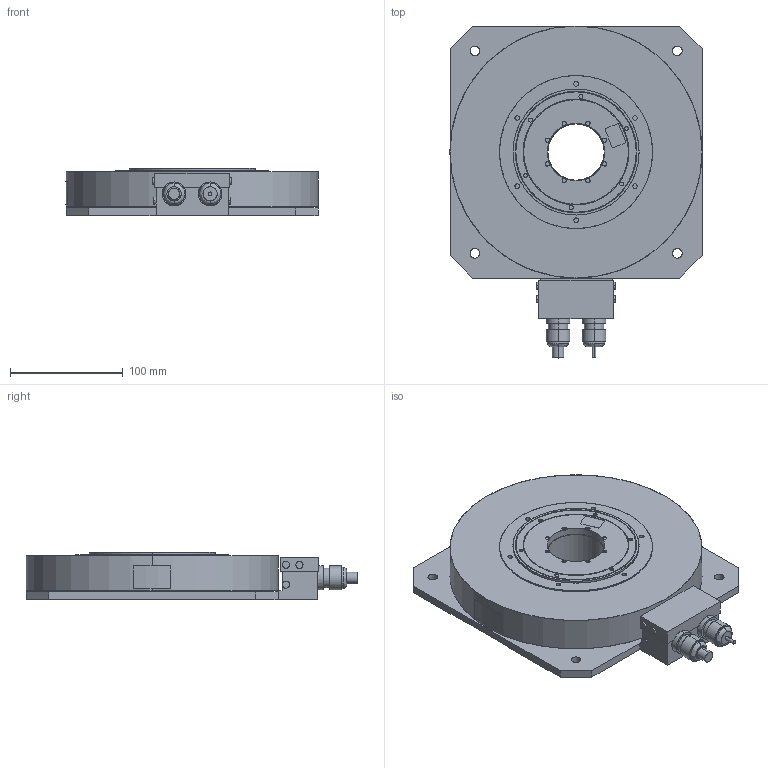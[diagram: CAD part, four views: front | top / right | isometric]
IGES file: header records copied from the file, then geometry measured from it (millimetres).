
Start section: SolidWorks IGES file using analytic representation for surfaces
Global section: file name: \\sv00376\技術2\Y_安川電機\1512027_3Dモデル作成\data\標準\SGM7D-12LFC41\再提出\sgm7d_12lfc41.IGS; native system: SolidWorks 2010; preprocessor: SolidWorks 2010; author: EN00464-1; date: 160208.183642; units: millimetre
Bounding box: 224.1 x 295 x 42.1 mm (x, y, z)
Surface area: 156250 mm2 (no closed solid volume)
Topology: 0 solids, 0 shells, 297 faces, 6759 edges, 6759 vertices
Faces by surface type: revolution 168, bspline 129
